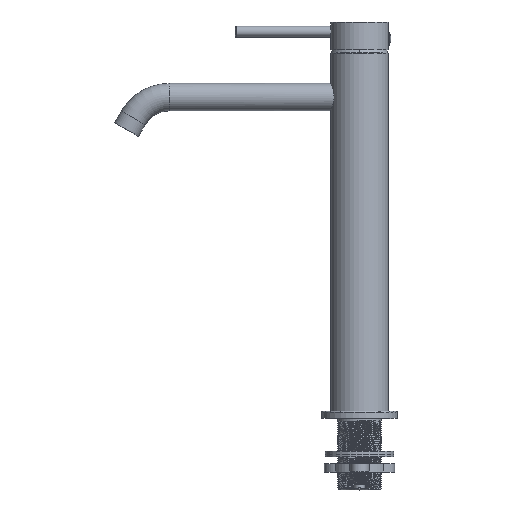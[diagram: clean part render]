
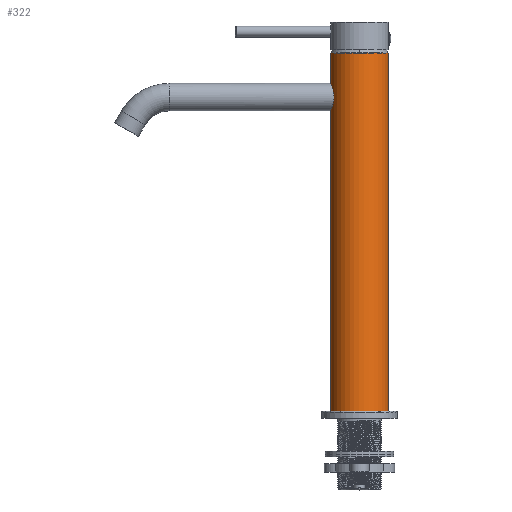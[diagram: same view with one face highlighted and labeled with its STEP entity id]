
A CAD part, top view. The second image highlights one B-rep face of the part: STEP entity #322.
In plain terms, the highlighted cylindrical face has radius 21 mm (diameter 42 mm), a partial arc.
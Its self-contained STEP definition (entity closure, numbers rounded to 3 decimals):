
#38=CARTESIAN_POINT('',(0.,-0.5,0.));
#39=DIRECTION('',(0.,-1.,0.));
#40=DIRECTION('',(1.,0.,0.));
#41=AXIS2_PLACEMENT_3D('',#38,#39,#40);
#43=CARTESIAN_POINT('',(0.,-260.5,0.));
#44=DIRECTION('',(0.,-1.,0.));
#45=DIRECTION('',(1.,0.,0.));
#46=AXIS2_PLACEMENT_3D('',#43,#44,#45);
#48=CARTESIAN_POINT('',(-21.,-27.5,0.));
#49=CARTESIAN_POINT('',(-21.,-27.5,0.401));
#50=CARTESIAN_POINT('',(-20.978,-27.591,1.187));
#51=CARTESIAN_POINT('',(-20.875,-28.044,2.381));
#52=CARTESIAN_POINT('',(-20.732,-28.752,3.384));
#53=CARTESIAN_POINT('',(-20.581,-29.687,4.193));
#54=CARTESIAN_POINT('',(-20.458,-30.769,4.744));
#55=CARTESIAN_POINT('',(-20.391,-31.982,5.023));
#56=CARTESIAN_POINT('',(-20.396,-33.178,5.002));
#57=CARTESIAN_POINT('',(-20.47,-34.358,4.693));
#58=CARTESIAN_POINT('',(-20.593,-35.398,4.132));
#59=CARTESIAN_POINT('',(-20.741,-36.296,3.327));
#60=CARTESIAN_POINT('',(-20.88,-36.98,2.334));
#61=CARTESIAN_POINT('',(-20.979,-37.415,1.155));
#62=CARTESIAN_POINT('',(-21.,-37.5,0.389));
#63=CARTESIAN_POINT('',(-21.,-37.5,0.));
#70=DIRECTION('',(0.,1.,0.));
#71=VECTOR('',#70,27.);
#72=CARTESIAN_POINT('',(-21.,-27.5,0.));
#73=LINE('',#72,#71);
#91=DIRECTION('',(0.,1.,0.));
#92=VECTOR('',#91,223.);
#93=CARTESIAN_POINT('',(-21.,-260.5,0.));
#94=LINE('',#93,#92);
#100=DIRECTION('',(0.,1.,0.));
#101=VECTOR('',#100,260.);
#102=CARTESIAN_POINT('',(21.,-260.5,0.));
#103=LINE('',#102,#101);
#218=CARTESIAN_POINT('',(21.,-260.5,0.));
#219=CARTESIAN_POINT('',(-21.,-260.5,0.));
#220=VERTEX_POINT('',#218);
#221=VERTEX_POINT('',#219);
#230=VERTEX_POINT('',#48);
#231=VERTEX_POINT('',#63);
#248=CARTESIAN_POINT('',(21.,-0.5,0.));
#249=CARTESIAN_POINT('',(-21.,-0.5,0.));
#250=VERTEX_POINT('',#248);
#251=VERTEX_POINT('',#249);
#304=CARTESIAN_POINT('',(0.,13.025,0.));
#305=DIRECTION('',(0.,-1.,0.));
#306=DIRECTION('',(-1.,0.,0.));
#307=AXIS2_PLACEMENT_3D('',#304,#305,#306);
#308=CYLINDRICAL_SURFACE('',#307,21.);
#310=ORIENTED_EDGE('',*,*,#309,.F.);
#312=ORIENTED_EDGE('',*,*,#311,.F.);
#313=ORIENTED_EDGE('',*,*,#292,.T.);
#315=ORIENTED_EDGE('',*,*,#314,.T.);
#317=ORIENTED_EDGE('',*,*,#316,.F.);
#319=ORIENTED_EDGE('',*,*,#318,.T.);
#320=EDGE_LOOP('',(#310,#312,#313,#315,#317,#319));
#321=FACE_OUTER_BOUND('',#320,.F.);
#42=CIRCLE('',#41,21.);
#47=CIRCLE('',#46,21.);
#64=B_SPLINE_CURVE_WITH_KNOTS('',3,(#48,#49,#50,#51,#52,#53,#54,#55,#56,#57,#58,
#59,#60,#61,#62,#63),.UNSPECIFIED.,.F.,.F.,(4,1,1,1,1,1,1,1,1,1,1,1,1,4),(0.,
0.077,0.154,0.231,0.308,
0.385,0.462,0.538,0.615,
0.692,0.769,0.846,0.923,1.),
.UNSPECIFIED.);
#292=EDGE_CURVE('',#220,#221,#47,.T.);
#309=EDGE_CURVE('',#250,#251,#42,.T.);
#311=EDGE_CURVE('',#220,#250,#103,.T.);
#314=EDGE_CURVE('',#221,#231,#94,.T.);
#316=EDGE_CURVE('',#230,#231,#64,.T.);
#318=EDGE_CURVE('',#230,#251,#73,.T.);
#322=ADVANCED_FACE('',(#321),#308,.T.);
